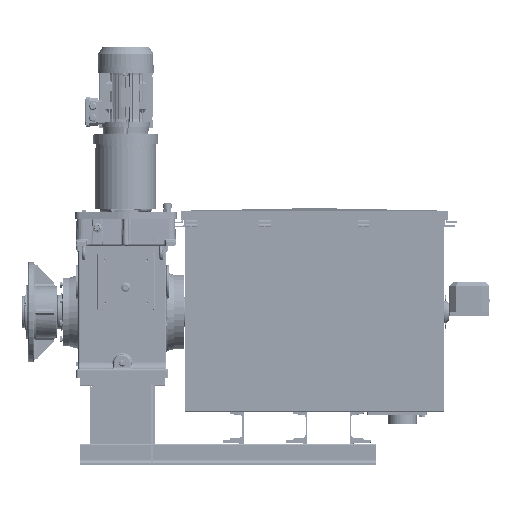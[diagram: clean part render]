
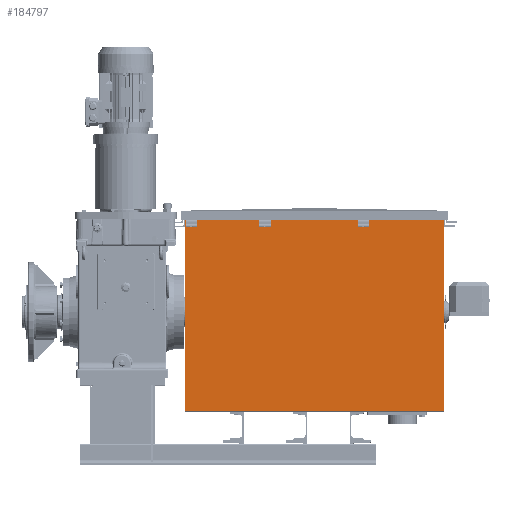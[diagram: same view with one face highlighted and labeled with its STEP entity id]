
A CAD part, top view. The second image highlights one B-rep face of the part: STEP entity #184797.
In plain terms, the highlighted planar face has unit normal (0, 0, 1).
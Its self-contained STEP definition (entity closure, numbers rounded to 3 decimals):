
#937=PLANE('',#195637);
#9870=LINE('',#267365,#26189);
#9887=LINE('',#267410,#26206);
#9889=LINE('',#267414,#26208);
#9890=LINE('',#267416,#26209);
#9891=LINE('',#267425,#26210);
#9908=LINE('',#267470,#26227);
#9910=LINE('',#267474,#26229);
#9911=LINE('',#267476,#26230);
#9912=LINE('',#267485,#26231);
#9929=LINE('',#267530,#26248);
#9931=LINE('',#267534,#26250);
#9932=LINE('',#267536,#26251);
#10199=LINE('',#268294,#26518);
#10202=LINE('',#268300,#26521);
#10205=LINE('',#268307,#26524);
#10208=LINE('',#268311,#26527);
#10214=LINE('',#268323,#26533);
#10216=LINE('',#268327,#26535);
#10218=LINE('',#268330,#26537);
#10219=LINE('',#268333,#26538);
#10220=LINE('',#268335,#26539);
#10221=LINE('',#268336,#26540);
#10222=LINE('',#268338,#26541);
#10223=LINE('',#268339,#26542);
#26189=VECTOR('',#212960,40.);
#26206=VECTOR('',#213003,40.);
#26208=VECTOR('',#213007,40.);
#26209=VECTOR('',#213010,40.);
#26210=VECTOR('',#213019,40.);
#26227=VECTOR('',#213062,40.);
#26229=VECTOR('',#213066,40.);
#26230=VECTOR('',#213069,40.);
#26231=VECTOR('',#213078,40.);
#26248=VECTOR('',#213121,40.);
#26250=VECTOR('',#213125,40.);
#26251=VECTOR('',#213128,40.);
#26518=VECTOR('',#213881,865.);
#26521=VECTOR('',#213886,0.992);
#26524=VECTOR('',#213891,2.976);
#26527=VECTOR('',#213896,1.984);
#26533=VECTOR('',#213906,2.976);
#26535=VECTOR('',#213910,0.992);
#26537=VECTOR('',#213914,1.984);
#26538=VECTOR('',#213917,23.016);
#26539=VECTOR('',#213918,699.016);
#26540=VECTOR('',#213919,915.);
#26541=VECTOR('',#213920,699.016);
#26542=VECTOR('',#213921,23.016);
#42468=FACE_BOUND('',#61677,.T.);
#42469=FACE_BOUND('',#61678,.T.);
#42470=FACE_BOUND('',#61679,.T.);
#51312=FACE_OUTER_BOUND('',#61676,.T.);
#61676=EDGE_LOOP('',(#123187,#123188,#123189,#123190,#123191,#123192,#123193,
#123194,#123195,#123196,#123197,#123198));
#61677=EDGE_LOOP('',(#123199,#123200,#123201,#123202));
#61678=EDGE_LOOP('',(#123203,#123204,#123205,#123206));
#61679=EDGE_LOOP('',(#123207,#123208,#123209,#123210));
#76901=VERTEX_POINT('',#267363);
#76902=VERTEX_POINT('',#267364);
#76917=VERTEX_POINT('',#267408);
#76918=VERTEX_POINT('',#267412);
#76921=VERTEX_POINT('',#267423);
#76922=VERTEX_POINT('',#267424);
#76937=VERTEX_POINT('',#267468);
#76938=VERTEX_POINT('',#267472);
#76941=VERTEX_POINT('',#267483);
#76942=VERTEX_POINT('',#267484);
#76957=VERTEX_POINT('',#267528);
#76958=VERTEX_POINT('',#267532);
#77113=VERTEX_POINT('',#267994);
#77205=VERTEX_POINT('',#268286);
#77206=VERTEX_POINT('',#268290);
#77208=VERTEX_POINT('',#268298);
#77210=VERTEX_POINT('',#268304);
#77211=VERTEX_POINT('',#268306);
#77214=VERTEX_POINT('',#268320);
#77215=VERTEX_POINT('',#268322);
#77216=VERTEX_POINT('',#268326);
#77217=VERTEX_POINT('',#268332);
#77218=VERTEX_POINT('',#268334);
#77219=VERTEX_POINT('',#268337);
#94719=EDGE_CURVE('',#76901,#76902,#9870,.T.);
#94742=EDGE_CURVE('',#76902,#76917,#9887,.T.);
#94744=EDGE_CURVE('',#76918,#76901,#9889,.T.);
#94745=EDGE_CURVE('',#76917,#76918,#9890,.T.);
#94748=EDGE_CURVE('',#76921,#76922,#9891,.T.);
#94771=EDGE_CURVE('',#76922,#76937,#9908,.T.);
#94773=EDGE_CURVE('',#76938,#76921,#9910,.T.);
#94774=EDGE_CURVE('',#76937,#76938,#9911,.T.);
#94777=EDGE_CURVE('',#76941,#76942,#9912,.T.);
#94800=EDGE_CURVE('',#76942,#76957,#9929,.T.);
#94802=EDGE_CURVE('',#76958,#76941,#9931,.T.);
#94803=EDGE_CURVE('',#76957,#76958,#9932,.T.);
#95171=EDGE_CURVE('',#77205,#77206,#10199,.T.);
#95174=EDGE_CURVE('',#77206,#77208,#10202,.T.);
#95177=EDGE_CURVE('',#77211,#77210,#10205,.T.);
#95180=EDGE_CURVE('',#77208,#77211,#10208,.T.);
#95186=EDGE_CURVE('',#77215,#77214,#10214,.T.);
#95188=EDGE_CURVE('',#77216,#77205,#10216,.T.);
#95190=EDGE_CURVE('',#77214,#77216,#10218,.T.);
#95191=EDGE_CURVE('',#77217,#77210,#10219,.T.);
#95192=EDGE_CURVE('',#77218,#77217,#10220,.T.);
#95193=EDGE_CURVE('',#77218,#77113,#10221,.T.);
#95194=EDGE_CURVE('',#77219,#77113,#10222,.T.);
#95195=EDGE_CURVE('',#77215,#77219,#10223,.T.);
#123187=ORIENTED_EDGE('',*,*,#95177,.T.);
#123188=ORIENTED_EDGE('',*,*,#95191,.F.);
#123189=ORIENTED_EDGE('',*,*,#95192,.F.);
#123190=ORIENTED_EDGE('',*,*,#95193,.T.);
#123191=ORIENTED_EDGE('',*,*,#95194,.F.);
#123192=ORIENTED_EDGE('',*,*,#95195,.F.);
#123193=ORIENTED_EDGE('',*,*,#95186,.T.);
#123194=ORIENTED_EDGE('',*,*,#95190,.T.);
#123195=ORIENTED_EDGE('',*,*,#95188,.T.);
#123196=ORIENTED_EDGE('',*,*,#95171,.T.);
#123197=ORIENTED_EDGE('',*,*,#95174,.T.);
#123198=ORIENTED_EDGE('',*,*,#95180,.T.);
#123199=ORIENTED_EDGE('',*,*,#94719,.T.);
#123200=ORIENTED_EDGE('',*,*,#94742,.T.);
#123201=ORIENTED_EDGE('',*,*,#94745,.T.);
#123202=ORIENTED_EDGE('',*,*,#94744,.T.);
#123203=ORIENTED_EDGE('',*,*,#94748,.T.);
#123204=ORIENTED_EDGE('',*,*,#94771,.T.);
#123205=ORIENTED_EDGE('',*,*,#94774,.T.);
#123206=ORIENTED_EDGE('',*,*,#94773,.T.);
#123207=ORIENTED_EDGE('',*,*,#94777,.T.);
#123208=ORIENTED_EDGE('',*,*,#94800,.T.);
#123209=ORIENTED_EDGE('',*,*,#94803,.T.);
#123210=ORIENTED_EDGE('',*,*,#94802,.T.);
#184797=ADVANCED_FACE('',(#51312,#42468,#42469,#42470),#937,.F.);
#195637=AXIS2_PLACEMENT_3D('',#268331,#213915,#213916);
#212960=DIRECTION('',(0.,-1.,0.));
#213003=DIRECTION('',(-1.,0.,0.));
#213007=DIRECTION('',(1.,0.,0.));
#213010=DIRECTION('',(0.,1.,0.));
#213019=DIRECTION('',(0.,-1.,0.));
#213062=DIRECTION('',(-1.,0.,0.));
#213066=DIRECTION('',(1.,0.,0.));
#213069=DIRECTION('',(0.,1.,0.));
#213078=DIRECTION('',(0.,-1.,0.));
#213121=DIRECTION('',(-1.,0.,0.));
#213125=DIRECTION('',(1.,0.,0.));
#213128=DIRECTION('',(0.,1.,0.));
#213881=DIRECTION('',(-1.,0.,0.));
#213886=DIRECTION('',(0.,-1.,0.));
#213891=DIRECTION('',(0.,1.,0.));
#213896=DIRECTION('',(-1.,0.,0.));
#213906=DIRECTION('',(0.,-1.,0.));
#213910=DIRECTION('',(0.,1.,0.));
#213914=DIRECTION('',(-1.,0.,0.));
#213915=DIRECTION('center_axis',(0.,0.,
-1.));
#213916=DIRECTION('ref_axis',(-1.,0.,0.));
#213917=DIRECTION('',(1.,0.,0.));
#213918=DIRECTION('',(0.,1.,0.));
#213919=DIRECTION('',(1.,0.,0.));
#213920=DIRECTION('',(0.,-1.,0.));
#213921=DIRECTION('',(1.,0.,0.));
#267363=CARTESIAN_POINT('',(305.802,282.411,203.519));
#267364=CARTESIAN_POINT('',(305.802,242.411,203.519));
#267365=CARTESIAN_POINT('',(305.802,95.33,203.519));
#267408=CARTESIAN_POINT('',(265.802,242.411,203.519));
#267410=CARTESIAN_POINT('',(503.302,242.411,203.519));
#267412=CARTESIAN_POINT('',(265.802,282.411,203.519));
#267414=CARTESIAN_POINT('',(503.302,282.411,203.519));
#267416=CARTESIAN_POINT('',(265.802,95.33,203.519));
#267423=CARTESIAN_POINT('',(915.802,282.411,203.519));
#267424=CARTESIAN_POINT('',(915.802,242.411,203.519));
#267425=CARTESIAN_POINT('',(915.802,95.33,203.519));
#267468=CARTESIAN_POINT('',(875.802,242.411,203.519));
#267470=CARTESIAN_POINT('',(808.302,242.411,203.519));
#267472=CARTESIAN_POINT('',(875.802,282.411,203.519));
#267474=CARTESIAN_POINT('',(808.302,282.411,203.519));
#267476=CARTESIAN_POINT('',(875.802,95.33,203.519));
#267483=CARTESIAN_POINT('',(565.802,282.411,203.519));
#267484=CARTESIAN_POINT('',(565.802,242.411,203.519));
#267485=CARTESIAN_POINT('',(565.802,95.33,203.519));
#267528=CARTESIAN_POINT('',(525.802,242.411,203.519));
#267530=CARTESIAN_POINT('',(633.302,242.411,203.519));
#267532=CARTESIAN_POINT('',(525.802,282.411,203.519));
#267534=CARTESIAN_POINT('',(633.302,282.411,203.519));
#267536=CARTESIAN_POINT('',(525.802,95.33,203.519));
#267994=CARTESIAN_POINT('',(1178.302,-410.889,203.519));
#268286=CARTESIAN_POINT('',(1153.302,286.143,203.519));
#268290=CARTESIAN_POINT('',(288.302,286.143,203.519));
#268294=CARTESIAN_POINT('',(504.552,286.143,203.519));
#268298=CARTESIAN_POINT('',(288.302,285.151,203.519));
#268300=CARTESIAN_POINT('',(288.302,110.763,203.519));
#268304=CARTESIAN_POINT('',(286.318,288.127,203.519));
#268306=CARTESIAN_POINT('',(286.318,285.151,203.519));
#268307=CARTESIAN_POINT('',(286.318,112.251,203.519));
#268311=CARTESIAN_POINT('',(503.56,285.151,203.519));
#268320=CARTESIAN_POINT('',(1155.286,285.151,203.519));
#268322=CARTESIAN_POINT('',(1155.286,288.127,203.519));
#268323=CARTESIAN_POINT('',(1155.286,110.763,203.519));
#268326=CARTESIAN_POINT('',(1153.302,285.151,203.519));
#268327=CARTESIAN_POINT('',(1153.302,112.251,203.519));
#268330=CARTESIAN_POINT('',(937.052,285.151,203.519));
#268331=CARTESIAN_POINT('Origin',(720.802,-63.625,203.519));
#268332=CARTESIAN_POINT('',(263.302,288.127,203.519));
#268333=CARTESIAN_POINT('',(263.302,288.127,203.519));
#268334=CARTESIAN_POINT('',(263.302,-410.889,203.519));
#268335=CARTESIAN_POINT('',(263.302,-410.889,203.519));
#268336=CARTESIAN_POINT('',(720.802,-410.889,203.519));
#268337=CARTESIAN_POINT('',(1178.302,288.127,203.519));
#268338=CARTESIAN_POINT('',(1178.302,-419.864,203.519));
#268339=CARTESIAN_POINT('',(263.302,288.127,203.519));
